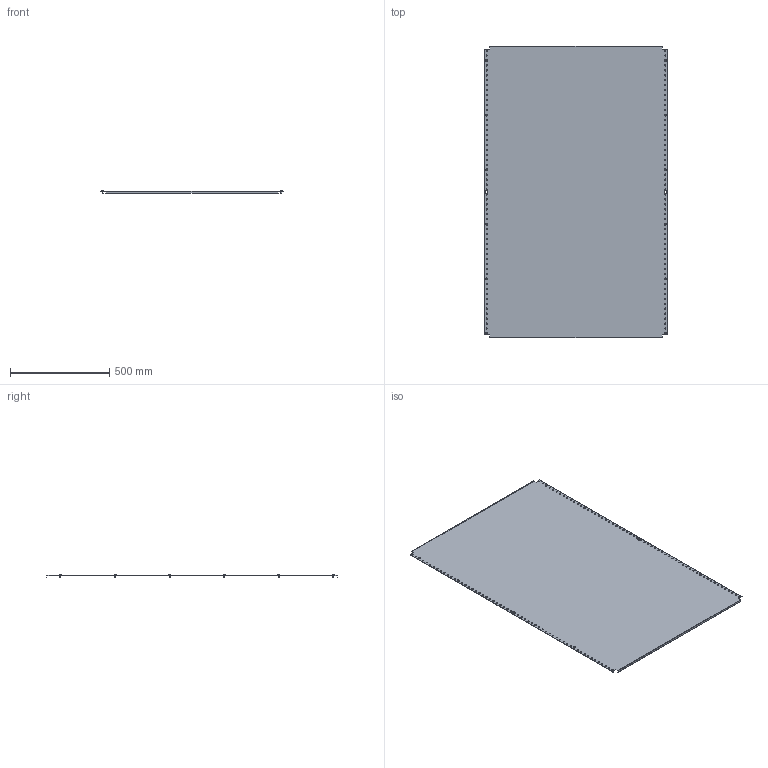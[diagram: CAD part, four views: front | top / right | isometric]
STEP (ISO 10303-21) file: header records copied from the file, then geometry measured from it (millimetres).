
FILE_DESCRIPTION (( 'STEP AP203' ), '1' );
FILE_NAME ('R6MP16100.STEP', '2025-03-28T12:10:01', ( '' ), ( '' ), 'SwSTEP 2.0', 'SolidWorks 2022', '' );
FILE_SCHEMA (( 'CONFIG_CONTROL_DESIGN' ));
Length unit declared in the file: millimetre
Products named in the file (3): R6MP16100; RB.3293.00.00.0_-19; M5x12 DIN 7500 C Torx Zinc_stright
Assembly tree (13 placements, depth 2):
  R6MP16100
    RB.3293.00.00.0_-19
    M5x12 DIN 7500 C Torx Zinc_stright  x12
Bounding box: 925 x 1470 x 15.56 mm (x, y, z)
Volume: 2468012.6 mm3; surface area: 2754778 mm2
Topology: 13 solids, 13 shells, 342 faces, 804 edges, 500 vertices
Faces by surface type: cylinder 144, plane 126, torus 24, cone 24, sphere 12, bspline 12
Full cylindrical faces by diameter (mm): 5 x12, 6.5 x116, 9.5 x12
Entity records: 6213 total; most frequent: CARTESIAN_POINT 1044, DIRECTION 956, ORIENTED_EDGE 696, EDGE_LOOP 526, AXIS2_PLACEMENT_3D 434, EDGE_CURVE 348, VERTEX_POINT 310, FACE_OUTER_BOUND 288
